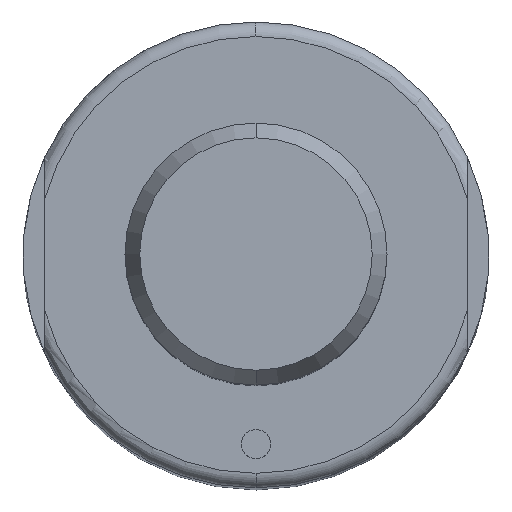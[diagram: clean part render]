
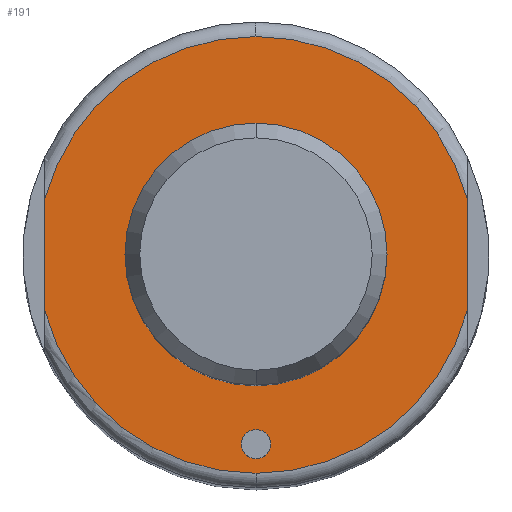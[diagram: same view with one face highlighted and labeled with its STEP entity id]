
A CAD part, top view. The second image highlights one B-rep face of the part: STEP entity #191.
In plain terms, the highlighted planar face has unit normal (0, 0, 1).
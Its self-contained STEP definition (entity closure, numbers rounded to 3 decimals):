
#115=FACE_BOUND('',#292,.T.);
#116=FACE_BOUND('',#293,.T.);
#117=FACE_BOUND('',#294,.T.);
#126=PLANE('',#862);
#191=ADVANCED_FACE('',(#115,#116,#117),#126,.T.);
#292=EDGE_LOOP('',(#515,#516,#517,#518,#519,#520));
#293=EDGE_LOOP('',(#521,#522));
#294=EDGE_LOOP('',(#523,#524));
#303=CIRCLE('',#774,9.);
#304=CIRCLE('',#776,9.);
#310=CIRCLE('',#786,1.);
#311=CIRCLE('',#788,1.);
#343=CIRCLE('',#846,15.);
#344=CIRCLE('',#848,15.);
#348=CIRCLE('',#854,15.);
#352=CIRCLE('',#860,15.);
#515=ORIENTED_EDGE('',*,*,#691,.F.);
#516=ORIENTED_EDGE('',*,*,#690,.F.);
#517=ORIENTED_EDGE('',*,*,#674,.F.);
#518=ORIENTED_EDGE('',*,*,#692,.F.);
#519=ORIENTED_EDGE('',*,*,#672,.F.);
#520=ORIENTED_EDGE('',*,*,#683,.F.);
#521=ORIENTED_EDGE('',*,*,#621,.F.);
#522=ORIENTED_EDGE('',*,*,#620,.F.);
#523=ORIENTED_EDGE('',*,*,#610,.T.);
#524=ORIENTED_EDGE('',*,*,#608,.T.);
#545=VERTEX_POINT('',#1117);
#546=VERTEX_POINT('',#1119);
#551=VERTEX_POINT('',#1138);
#554=VERTEX_POINT('',#1143);
#586=VERTEX_POINT('',#1259);
#588=VERTEX_POINT('',#1263);
#589=VERTEX_POINT('',#1274);
#591=VERTEX_POINT('',#1277);
#595=VERTEX_POINT('',#1298);
#600=VERTEX_POINT('',#1319);
#608=EDGE_CURVE('',#546,#545,#303,.T.);
#610=EDGE_CURVE('',#545,#546,#304,.T.);
#620=EDGE_CURVE('',#554,#551,#310,.T.);
#621=EDGE_CURVE('',#551,#554,#311,.T.);
#672=EDGE_CURVE('',#588,#586,#343,.T.);
#674=EDGE_CURVE('',#589,#591,#344,.T.);
#683=EDGE_CURVE('',#595,#588,#348,.T.);
#690=EDGE_CURVE('',#591,#600,#352,.T.);
#691=EDGE_CURVE('',#600,#595,#727,.T.);
#692=EDGE_CURVE('',#586,#589,#728,.T.);
#727=LINE('',#1322,#763);
#728=LINE('',#1323,#764);
#763=VECTOR('',#1089,1.);
#764=VECTOR('',#1090,1.);
#774=AXIS2_PLACEMENT_3D('',#1118,#884,#885);
#776=AXIS2_PLACEMENT_3D('',#1122,#889,#890);
#786=AXIS2_PLACEMENT_3D('',#1144,#913,#914);
#788=AXIS2_PLACEMENT_3D('',#1146,#917,#918);
#846=AXIS2_PLACEMENT_3D('',#1264,#1051,#1052);
#848=AXIS2_PLACEMENT_3D('',#1276,#1055,#1056);
#854=AXIS2_PLACEMENT_3D('',#1300,#1071,#1072);
#860=AXIS2_PLACEMENT_3D('',#1320,#1085,#1086);
#862=AXIS2_PLACEMENT_3D('',#1324,#1091,#1092);
#884=DIRECTION('',(0.,0.,-1.));
#885=DIRECTION('',(-1.,0.,0.));
#889=DIRECTION('',(0.,0.,-1.));
#890=DIRECTION('',(1.,0.,0.));
#913=DIRECTION('',(0.,0.,1.));
#914=DIRECTION('',(-1.,0.,0.));
#917=DIRECTION('',(0.,0.,1.));
#918=DIRECTION('',(1.,0.,0.));
#1051=DIRECTION('',(0.,0.,-1.));
#1052=DIRECTION('',(-1.,0.,0.));
#1055=DIRECTION('',(0.,0.,-1.));
#1056=DIRECTION('',(-1.,0.,0.));
#1071=DIRECTION('',(0.,0.,-1.));
#1072=DIRECTION('',(1.,0.,0.));
#1085=DIRECTION('',(0.,0.,-1.));
#1086=DIRECTION('',(1.,0.,0.));
#1089=DIRECTION('',(0.,1.,0.));
#1090=DIRECTION('',(0.,-1.,0.));
#1091=DIRECTION('',(0.,0.,1.));
#1092=DIRECTION('',(1.,0.,0.));
#1117=CARTESIAN_POINT('',(0.,-9.,86.));
#1118=CARTESIAN_POINT('',(0.,0.,86.));
#1119=CARTESIAN_POINT('',(0.,9.,86.));
#1122=CARTESIAN_POINT('',(0.,0.,86.));
#1138=CARTESIAN_POINT('',(0.,-12.,86.));
#1143=CARTESIAN_POINT('',(0.,-14.,86.));
#1144=CARTESIAN_POINT('',(0.,-13.,86.));
#1146=CARTESIAN_POINT('',(0.,-13.,86.));
#1259=CARTESIAN_POINT('',(14.5,3.841,86.));
#1263=CARTESIAN_POINT('',(0.,15.,86.));
#1264=CARTESIAN_POINT('',(0.,0.,86.));
#1274=CARTESIAN_POINT('',(14.5,-3.841,86.));
#1276=CARTESIAN_POINT('',(0.,0.,86.));
#1277=CARTESIAN_POINT('',(0.,-15.,86.));
#1298=CARTESIAN_POINT('',(-14.5,3.841,86.));
#1300=CARTESIAN_POINT('',(0.,0.,86.));
#1319=CARTESIAN_POINT('',(-14.5,-3.841,86.));
#1320=CARTESIAN_POINT('',(0.,0.,86.));
#1322=CARTESIAN_POINT('',(-14.5,0.,86.));
#1323=CARTESIAN_POINT('',(14.5,0.,86.));
#1324=CARTESIAN_POINT('',(0.,0.,86.));
